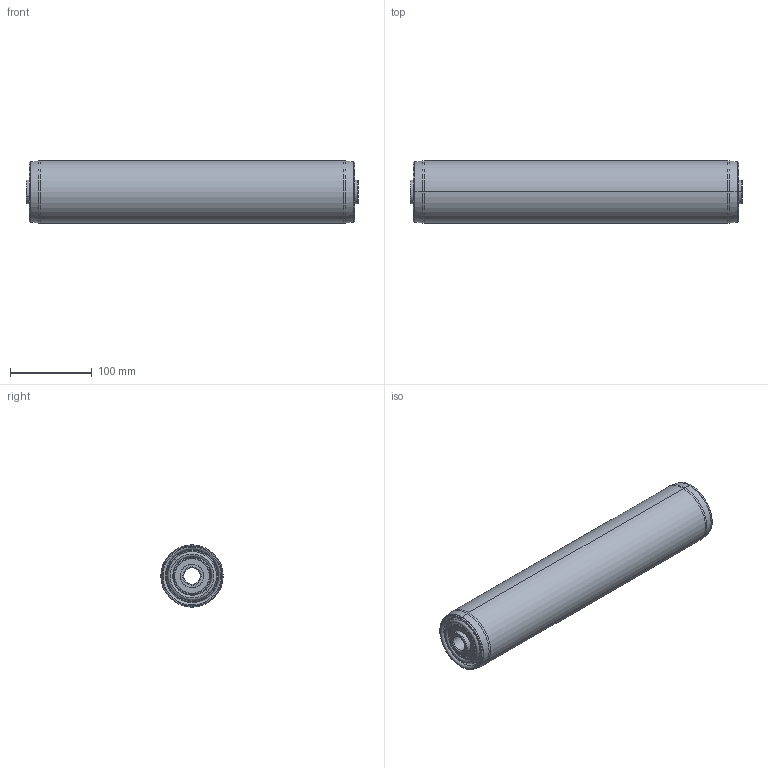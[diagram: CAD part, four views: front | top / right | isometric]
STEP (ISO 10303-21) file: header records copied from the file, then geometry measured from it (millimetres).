
FILE_DESCRIPTION (( 'STEP AP203' ), '1' );
FILE_NAME ('87264.STEP', '2012-06-21T11:11:10', ( 'John' ), ( 'Hewlett-Packard Company' ), 'SwSTEP 2.0', 'SolidWorks 2007', '' );
FILE_SCHEMA (( 'CONFIG_CONTROL_DESIGN' ));
Length unit declared in the file: millimetre
Products named in the file (5): Lagergavel pl廞 76mm K20..SLDPRT; K20; Rulle 76 x 300 u.g; Lagergavel pl廞 76mm u.l.; 87264
Assembly tree (5 placements, depth 3):
  87264
    Rulle 76 x 300 u.g
    Lagergavel pl廞 76mm K20..SLDPRT  x2
      K20
      Lagergavel pl廞 76mm u.l.
Bounding box: 405 x 76 x 76 mm (x, y, z)
Volume: 365349.7 mm3; surface area: 225282.3 mm2
Topology: 5 solids, 5 shells, 138 faces, 276 edges, 164 vertices
Faces by surface type: torus 60, cylinder 44, plane 26, cone 8
Entity records: 2577 total; most frequent: DIRECTION 444, CARTESIAN_POINT 327, ORIENTED_EDGE 304, AXIS2_PLACEMENT_3D 207, EDGE_CURVE 152, CIRCLE 122, EDGE_LOOP 90, VERTEX_POINT 90
